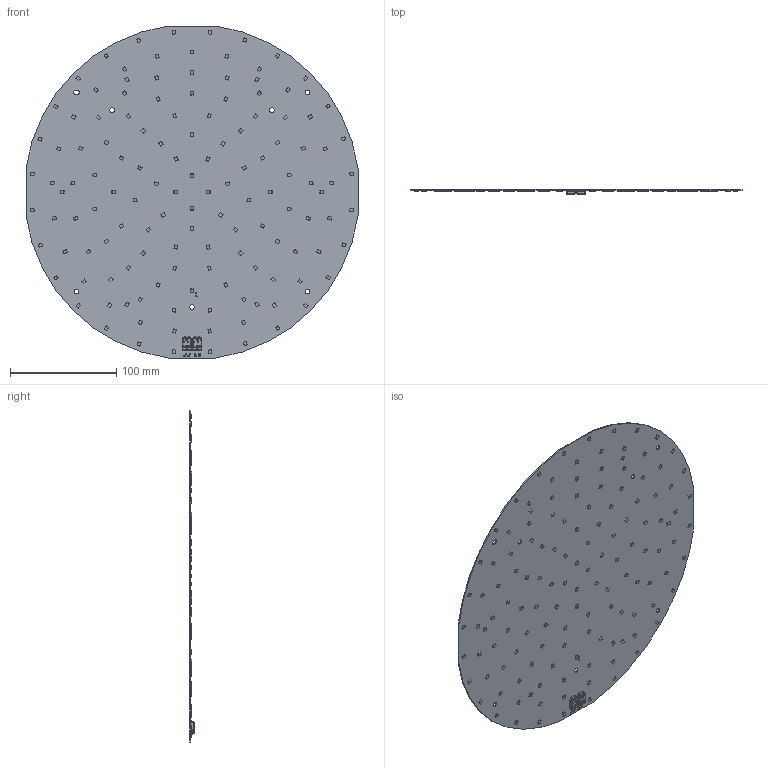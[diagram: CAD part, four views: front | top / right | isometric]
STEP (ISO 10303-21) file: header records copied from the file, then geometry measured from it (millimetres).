
FILE_DESCRIPTION(/* description */ ('Unknown'),/* implementation_level */ '2;1');
FILE_NAME(/* name */ '1010-117-22300 Sh-000 2017-08-25',/* time_stamp */ '2017-08-28T13:48:55+02:00',/* author */ ('Unknown'),/* organization */ ('Unknown'),/* preprocessor_version */ 'ST-DEVELOPER v16.7',/* originating_system */ 'DEX',/* authorisation */ $);
FILE_SCHEMA (('AUTOMOTIVE_DESIGN {1 0 10303 214 3 1 1}'));
Length unit declared in the file: millimetre
Products named in the file (4): RdLed 315 emg; PCB RDLed 315 emg; LED 2835; 4010-411-12610 Sh-000 2016-11-03
Assembly tree (137 placements, depth 2):
  RdLed 315 emg
    PCB RDLed 315 emg
    LED 2835  x134
    4010-411-12610 Sh-000 2016-11-03  x2
Bounding box: 311.8 x 4.5 x 311.8 mm (x, y, z)
Volume: 79254.1 mm3; surface area: 161323.2 mm2
Topology: 137 solids, 137 shells, 3212 faces, 8017 edges, 5234 vertices
Faces by surface type: plane 2689, cylinder 237, bspline 192, cone 52, torus 22, sphere 20
Full cylindrical faces by diameter (mm): 1.5 x5, 4.3 x6
Entity records: 23885 total; most frequent: CARTESIAN_POINT 7218, ORIENTED_EDGE 2710, DIRECTION 2264, EDGE_CURVE 1355, VERTEX_POINT 863, AXIS2_PLACEMENT_3D 813, LINE 638, VECTOR 638
